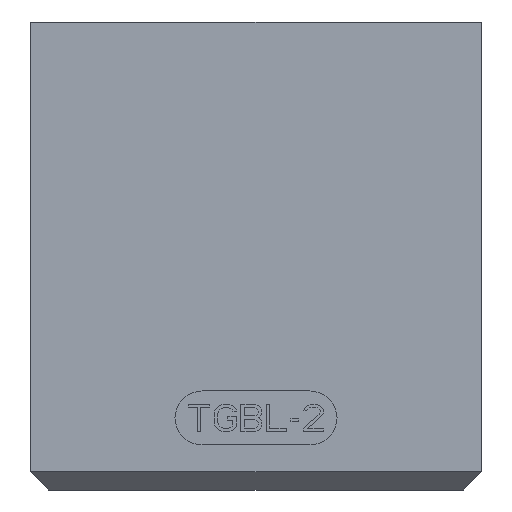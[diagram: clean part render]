
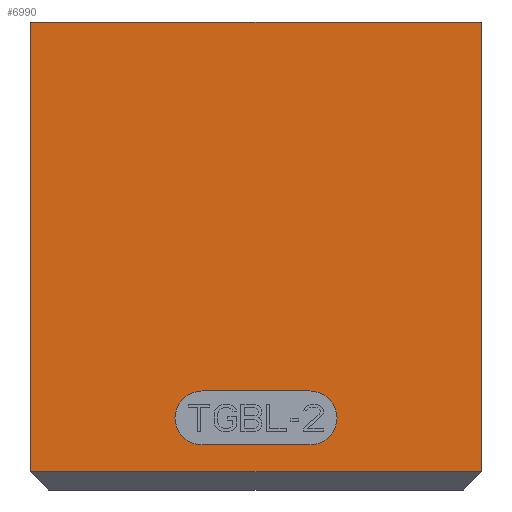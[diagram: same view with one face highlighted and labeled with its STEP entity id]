
A CAD part, front view. The second image highlights one B-rep face of the part: STEP entity #6990.
In plain terms, the highlighted planar face has unit normal (0, -1, 0).
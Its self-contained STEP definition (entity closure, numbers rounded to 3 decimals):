
#742=DIRECTION('',(1.,0.,0.));
#743=VECTOR('',#742,25.);
#744=CARTESIAN_POINT('',(-5.5,-5.,3.));
#745=LINE('',#744,#743);
#807=DIRECTION('',(0.,0.,1.));
#808=VECTOR('',#807,25.);
#809=CARTESIAN_POINT('',(19.5,-5.,-22.));
#810=LINE('',#809,#808);
#938=DIRECTION('',(-1.,0.,0.));
#939=VECTOR('',#938,25.);
#940=CARTESIAN_POINT('',(19.5,-5.,-22.));
#941=LINE('',#940,#939);
#945=DIRECTION('',(0.,0.,1.));
#946=VECTOR('',#945,25.);
#947=CARTESIAN_POINT('',(-5.5,-5.,-22.));
#948=LINE('',#947,#946);
#952=CARTESIAN_POINT('',(4.,-5.,-19.));
#953=DIRECTION('',(0.,-1.,0.));
#954=DIRECTION('',(0.,0.,1.));
#955=AXIS2_PLACEMENT_3D('',#952,#953,#954);
#960=DIRECTION('',(1.,0.,0.));
#961=VECTOR('',#960,6.);
#962=CARTESIAN_POINT('',(4.,-5.,-20.5));
#963=LINE('',#962,#961);
#967=CARTESIAN_POINT('',(10.,-5.,-19.));
#968=DIRECTION('',(0.,-1.,0.));
#969=DIRECTION('',(0.,0.,-1.));
#970=AXIS2_PLACEMENT_3D('',#967,#968,#969);
#975=DIRECTION('',(-1.,0.,0.));
#976=VECTOR('',#975,6.);
#977=CARTESIAN_POINT('',(10.,-5.,-17.5));
#978=LINE('',#977,#976);
#4550=CARTESIAN_POINT('',(-5.5,-5.,3.));
#4552=VERTEX_POINT('',#4550);
#4553=CARTESIAN_POINT('',(19.5,-5.,3.));
#4554=VERTEX_POINT('',#4553);
#4587=CARTESIAN_POINT('',(-5.5,-5.,-22.));
#4588=VERTEX_POINT('',#4587);
#4593=CARTESIAN_POINT('',(19.5,-5.,-22.));
#4594=VERTEX_POINT('',#4593);
#4625=CARTESIAN_POINT('',(4.,-5.,-17.5));
#4626=CARTESIAN_POINT('',(4.,-5.,-20.5));
#4627=VERTEX_POINT('',#4625);
#4628=VERTEX_POINT('',#4626);
#4629=CARTESIAN_POINT('',(10.,-5.,-20.5));
#4630=VERTEX_POINT('',#4629);
#4631=CARTESIAN_POINT('',(10.,-5.,-17.5));
#4632=VERTEX_POINT('',#4631);
#6969=CARTESIAN_POINT('',(-5.5,-5.,-23.));
#6970=DIRECTION('',(0.,-1.,0.));
#6971=DIRECTION('',(1.,0.,0.));
#6972=AXIS2_PLACEMENT_3D('',#6969,#6970,#6971);
#6973=PLANE('',#6972);
#6974=ORIENTED_EDGE('',*,*,#6963,.T.);
#6975=ORIENTED_EDGE('',*,*,#6938,.T.);
#6976=ORIENTED_EDGE('',*,*,#6828,.T.);
#6977=ORIENTED_EDGE('',*,*,#6850,.F.);
#6978=EDGE_LOOP('',(#6974,#6975,#6976,#6977));
#6979=FACE_OUTER_BOUND('',#6978,.F.);
#6981=ORIENTED_EDGE('',*,*,#6980,.T.);
#6983=ORIENTED_EDGE('',*,*,#6982,.T.);
#6985=ORIENTED_EDGE('',*,*,#6984,.T.);
#6987=ORIENTED_EDGE('',*,*,#6986,.T.);
#6988=EDGE_LOOP('',(#6981,#6983,#6985,#6987));
#6989=FACE_BOUND('',#6988,.F.);
#956=CIRCLE('',#955,1.5);
#971=CIRCLE('',#970,1.5);
#6828=EDGE_CURVE('',#4552,#4554,#745,.T.);
#6850=EDGE_CURVE('',#4594,#4554,#810,.T.);
#6938=EDGE_CURVE('',#4588,#4552,#948,.T.);
#6963=EDGE_CURVE('',#4594,#4588,#941,.T.);
#6980=EDGE_CURVE('',#4627,#4628,#956,.T.);
#6982=EDGE_CURVE('',#4628,#4630,#963,.T.);
#6984=EDGE_CURVE('',#4630,#4632,#971,.T.);
#6986=EDGE_CURVE('',#4632,#4627,#978,.T.);
#6990=ADVANCED_FACE('',(#6979,#6989),#6973,.T.);
